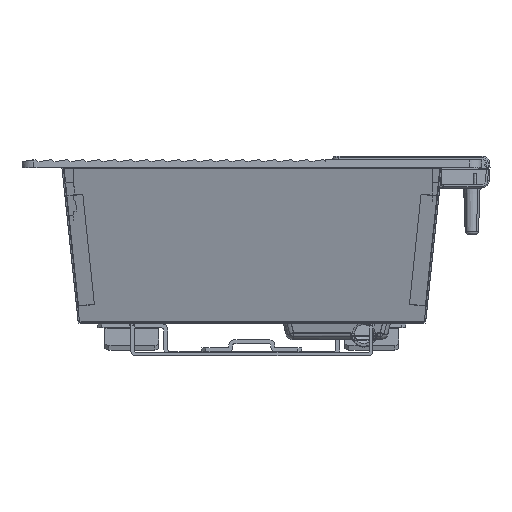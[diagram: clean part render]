
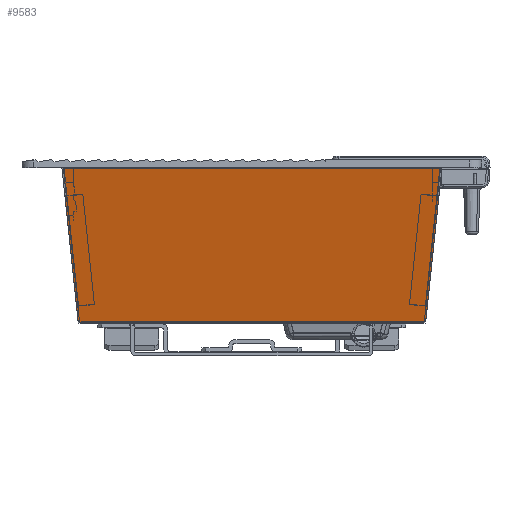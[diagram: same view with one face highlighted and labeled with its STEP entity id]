
A CAD part, front view. The second image highlights one B-rep face of the part: STEP entity #9583.
In plain terms, the highlighted planar face has unit normal (0, -0.974, -0.225).
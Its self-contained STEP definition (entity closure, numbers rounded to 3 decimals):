
#608 = VERTEX_POINT('',#609);
#609 = CARTESIAN_POINT('',(85.3,-752.24,-76.925));
#724 = VERTEX_POINT('',#725);
#725 = CARTESIAN_POINT('',(-85.3,-752.24,-76.925));
#9572 = EDGE_CURVE('',#608,#724,#9573,.T.);
#9573 = LINE('',#9574,#9575);
#9574 = CARTESIAN_POINT('',(85.3,-752.24,-76.925));
#9575 = VECTOR('',#9576,1.);
#9576 = DIRECTION('',(-1.,0.,0.));
#9583 = ADVANCED_FACE('',(#9584),#9675,.T.);
#9584 = FACE_BOUND('',#9585,.F.);
#9585 = EDGE_LOOP('',(#9586,#9596,#9604,#9612,#9620,#9628,#9636,#9645,
    #9651,#9652,#9660,#9669));
#9586 = ORIENTED_EDGE('',*,*,#9587,.T.);
#9587 = EDGE_CURVE('',#9588,#9590,#9592,.T.);
#9588 = VERTEX_POINT('',#9589);
#9589 = CARTESIAN_POINT('',(-93.541,-766.794,
    -13.885));
#9590 = VERTEX_POINT('',#9591);
#9591 = CARTESIAN_POINT('',(-92.844,-766.81,
    -13.815));
#9592 = LINE('',#9593,#9594);
#9593 = CARTESIAN_POINT('',(-93.541,-766.794,
    -13.885));
#9594 = VECTOR('',#9595,1.);
#9595 = DIRECTION('',(0.995,-0.023,
    0.099));
#9596 = ORIENTED_EDGE('',*,*,#9597,.T.);
#9597 = EDGE_CURVE('',#9590,#9598,#9600,.T.);
#9598 = VERTEX_POINT('',#9599);
#9599 = CARTESIAN_POINT('',(-94.296,-770.,0.));
#9600 = LINE('',#9601,#9602);
#9601 = CARTESIAN_POINT('',(-92.844,-766.81,
    -13.815));
#9602 = VECTOR('',#9603,1.);
#9603 = DIRECTION('',(-0.102,-0.224,0.969));
#9604 = ORIENTED_EDGE('',*,*,#9605,.T.);
#9605 = EDGE_CURVE('',#9598,#9606,#9608,.T.);
#9606 = VERTEX_POINT('',#9607);
#9607 = CARTESIAN_POINT('',(94.296,-770.,0.));
#9608 = LINE('',#9609,#9610);
#9609 = CARTESIAN_POINT('',(-94.296,-770.,0.));
#9610 = VECTOR('',#9611,1.);
#9611 = DIRECTION('',(1.,0.,0.));
#9612 = ORIENTED_EDGE('',*,*,#9613,.F.);
#9613 = EDGE_CURVE('',#9614,#9606,#9616,.T.);
#9614 = VERTEX_POINT('',#9615);
#9615 = CARTESIAN_POINT('',(92.844,-766.81,
    -13.815));
#9616 = LINE('',#9617,#9618);
#9617 = CARTESIAN_POINT('',(92.844,-766.81,
    -13.815));
#9618 = VECTOR('',#9619,1.);
#9619 = DIRECTION('',(0.102,-0.224,0.969));
#9620 = ORIENTED_EDGE('',*,*,#9621,.F.);
#9621 = EDGE_CURVE('',#9622,#9614,#9624,.T.);
#9622 = VERTEX_POINT('',#9623);
#9623 = CARTESIAN_POINT('',(93.541,-766.794,
    -13.885));
#9624 = LINE('',#9625,#9626);
#9625 = CARTESIAN_POINT('',(93.541,-766.794,
    -13.885));
#9626 = VECTOR('',#9627,1.);
#9627 = DIRECTION('',(-0.995,-0.023,
    0.099));
#9628 = ORIENTED_EDGE('',*,*,#9629,.F.);
#9629 = EDGE_CURVE('',#9630,#9622,#9632,.T.);
#9630 = VERTEX_POINT('',#9631);
#9631 = CARTESIAN_POINT('',(87.007,-752.443,
    -76.05));
#9632 = LINE('',#9633,#9634);
#9633 = CARTESIAN_POINT('',(87.007,-752.443,
    -76.05));
#9634 = VECTOR('',#9635,1.);
#9635 = DIRECTION('',(0.102,-0.224,0.969));
#9636 = ORIENTED_EDGE('',*,*,#9637,.F.);
#9637 = EDGE_CURVE('',#9638,#9630,#9640,.T.);
#9638 = VERTEX_POINT('',#9639);
#9639 = CARTESIAN_POINT('',(86.012,-752.24,
    -76.925));
#9640 = CIRCLE('',#9641,1.);
#9641 = AXIS2_PLACEMENT_3D('',#9642,#9643,#9644);
#9642 = CARTESIAN_POINT('',(86.012,-752.465,
    -75.951));
#9643 = DIRECTION('',(0.,-0.974,
    -0.225));
#9644 = DIRECTION('',(0.,0.225,-0.974
    ));
#9645 = ORIENTED_EDGE('',*,*,#9646,.T.);
#9646 = EDGE_CURVE('',#9638,#608,#9647,.T.);
#9647 = LINE('',#9648,#9649);
#9648 = CARTESIAN_POINT('',(86.012,-752.24,
    -76.925));
#9649 = VECTOR('',#9650,1.);
#9650 = DIRECTION('',(-1.,0.,0.));
#9651 = ORIENTED_EDGE('',*,*,#9572,.T.);
#9652 = ORIENTED_EDGE('',*,*,#9653,.F.);
#9653 = EDGE_CURVE('',#9654,#724,#9656,.T.);
#9654 = VERTEX_POINT('',#9655);
#9655 = CARTESIAN_POINT('',(-86.012,-752.24,
    -76.925));
#9656 = LINE('',#9657,#9658);
#9657 = CARTESIAN_POINT('',(-86.012,-752.24,
    -76.925));
#9658 = VECTOR('',#9659,1.);
#9659 = DIRECTION('',(1.,0.,0.));
#9660 = ORIENTED_EDGE('',*,*,#9661,.F.);
#9661 = EDGE_CURVE('',#9662,#9654,#9664,.T.);
#9662 = VERTEX_POINT('',#9663);
#9663 = CARTESIAN_POINT('',(-87.007,-752.443,
    -76.05));
#9664 = CIRCLE('',#9665,1.);
#9665 = AXIS2_PLACEMENT_3D('',#9666,#9667,#9668);
#9666 = CARTESIAN_POINT('',(-86.012,-752.465,
    -75.951));
#9667 = DIRECTION('',(0.,-0.974,-0.225));
#9668 = DIRECTION('',(-0.995,0.023,
    -0.099));
#9669 = ORIENTED_EDGE('',*,*,#9670,.T.);
#9670 = EDGE_CURVE('',#9662,#9588,#9671,.T.);
#9671 = LINE('',#9672,#9673);
#9672 = CARTESIAN_POINT('',(-87.007,-752.443,
    -76.05));
#9673 = VECTOR('',#9674,1.);
#9674 = DIRECTION('',(-0.102,-0.224,0.969));
#9675 = PLANE('',#9676);
#9676 = AXIS2_PLACEMENT_3D('',#9677,#9678,#9679);
#9677 = CARTESIAN_POINT('',(-95.,-770.,0.));
#9678 = DIRECTION('',(0.,-0.974,-0.225));
#9679 = DIRECTION('',(0.,0.225,-0.974));
